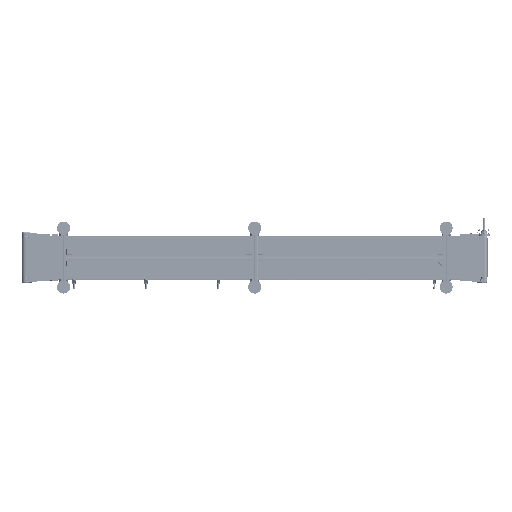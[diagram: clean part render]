
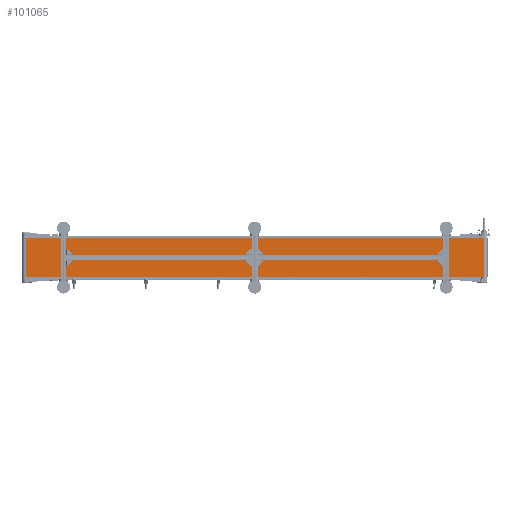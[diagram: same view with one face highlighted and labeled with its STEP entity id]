
A CAD part, front view. The second image highlights one B-rep face of the part: STEP entity #101065.
In plain terms, the highlighted planar face has unit normal (0, -1, 0).
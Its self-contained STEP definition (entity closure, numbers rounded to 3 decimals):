
#6215 = DIRECTION ( 'NONE',  ( 0., 1., 0. ) ) ;
#15770 = CARTESIAN_POINT ( 'NONE',  ( 1750., -27., 150. ) ) ;
#18448 = DIRECTION ( 'NONE',  ( 0., 0., -1. ) ) ;
#22910 = VECTOR ( 'NONE', #248976, 1000. ) ;
#24831 = EDGE_CURVE ( 'NONE', #203100, #247875, #101720, .T. ) ;
#27872 = PLANE ( 'NONE',  #55526 ) ;
#28274 = EDGE_CURVE ( 'NONE', #247875, #30057, #201538, .T. ) ;
#30057 = VERTEX_POINT ( 'NONE', #167228 ) ;
#37254 = DIRECTION ( 'NONE',  ( 0., 0., -1. ) ) ;
#40501 = VECTOR ( 'NONE', #18448, 1000. ) ;
#55526 = AXIS2_PLACEMENT_3D ( 'NONE', #153932, #6215, #148589 ) ;
#56292 = CARTESIAN_POINT ( 'NONE',  ( -1750., -27., 150. ) ) ;
#61053 = CARTESIAN_POINT ( 'NONE',  ( -1750., -27., 150. ) ) ;
#61622 = EDGE_LOOP ( 'NONE', ( #111606, #131850, #170942, #143457 ) ) ;
#75444 = CARTESIAN_POINT ( 'NONE',  ( 1750., -27., 150. ) ) ;
#76978 = VERTEX_POINT ( 'NONE', #181434 ) ;
#88331 = CARTESIAN_POINT ( 'NONE',  ( -1750., -27., 150. ) ) ;
#97543 = VECTOR ( 'NONE', #37254, 1000. ) ;
#101065 = ADVANCED_FACE ( 'NONE', ( #126931 ), #27872, .F. ) ;
#101720 = LINE ( 'NONE', #61053, #126712 ) ;
#111606 = ORIENTED_EDGE ( 'NONE', *, *, #178749, .T. ) ;
#126712 = VECTOR ( 'NONE', #244097, 1000. ) ;
#126931 = FACE_OUTER_BOUND ( 'NONE', #61622, .T. ) ;
#131850 = ORIENTED_EDGE ( 'NONE', *, *, #28274, .F. ) ;
#143457 = ORIENTED_EDGE ( 'NONE', *, *, #225055, .T. ) ;
#148589 = DIRECTION ( 'NONE',  ( 0., 0., 1. ) ) ;
#153932 = CARTESIAN_POINT ( 'NONE',  ( -1750., -27., 150. ) ) ;
#162300 = LINE ( 'NONE', #224632, #22910 ) ;
#167228 = CARTESIAN_POINT ( 'NONE',  ( 1750., -27., -150. ) ) ;
#170942 = ORIENTED_EDGE ( 'NONE', *, *, #24831, .F. ) ;
#178749 = EDGE_CURVE ( 'NONE', #76978, #30057, #162300, .T. ) ;
#181434 = CARTESIAN_POINT ( 'NONE',  ( -1750., -27., -150. ) ) ;
#198656 = LINE ( 'NONE', #56292, #97543 ) ;
#201538 = LINE ( 'NONE', #15770, #40501 ) ;
#203100 = VERTEX_POINT ( 'NONE', #88331 ) ;
#224632 = CARTESIAN_POINT ( 'NONE',  ( -1750., -27., -150. ) ) ;
#225055 = EDGE_CURVE ( 'NONE', #203100, #76978, #198656, .T. ) ;
#244097 = DIRECTION ( 'NONE',  ( 1., 0., 0. ) ) ;
#247875 = VERTEX_POINT ( 'NONE', #75444 ) ;
#248976 = DIRECTION ( 'NONE',  ( 1., 0., 0. ) ) ;
